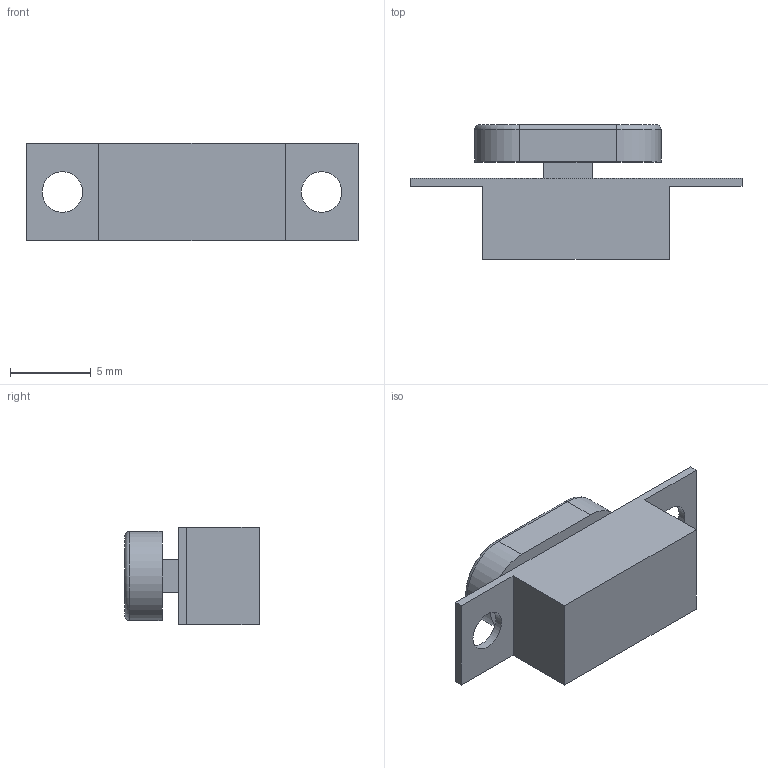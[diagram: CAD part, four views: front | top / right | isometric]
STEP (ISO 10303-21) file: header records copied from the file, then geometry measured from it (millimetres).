
FILE_DESCRIPTION(('FreeCAD Model'),'2;1');
FILE_NAME('Open CASCADE Shape Model','2023-05-06T18:44:57',('Author'),( ''),'Open CASCADE STEP processor 7.5','FreeCAD','Unknown');
FILE_SCHEMA(('AUTOMOTIVE_DESIGN { 1 0 10303 214 1 1 1 1 }'));
Length unit declared in the file: millimetre
Products named in the file (3): switcher electronic; switch_corps; switch_switcher
Assembly tree (2 placements, depth 2):
  switcher electronic
    switch_corps
    switch_switcher
Bounding box: 20.5 x 8.3 x 6 mm (x, y, z)
Volume: 467.1 mm3; surface area: 689.3 mm2
Topology: 2 solids, 2 shells, 32 faces, 76 edges, 50 vertices
Faces by surface type: plane 24, cylinder 6, torus 2
Full cylindrical faces by diameter (mm): 2.5 x2
Entity records: 1008 total; most frequent: DIRECTION 160, CARTESIAN_POINT 157, ORIENTED_EDGE 144, EDGE_CURVE 72, LINE 58, VECTOR 58, AXIS2_PLACEMENT_3D 51, VERTEX_POINT 48
